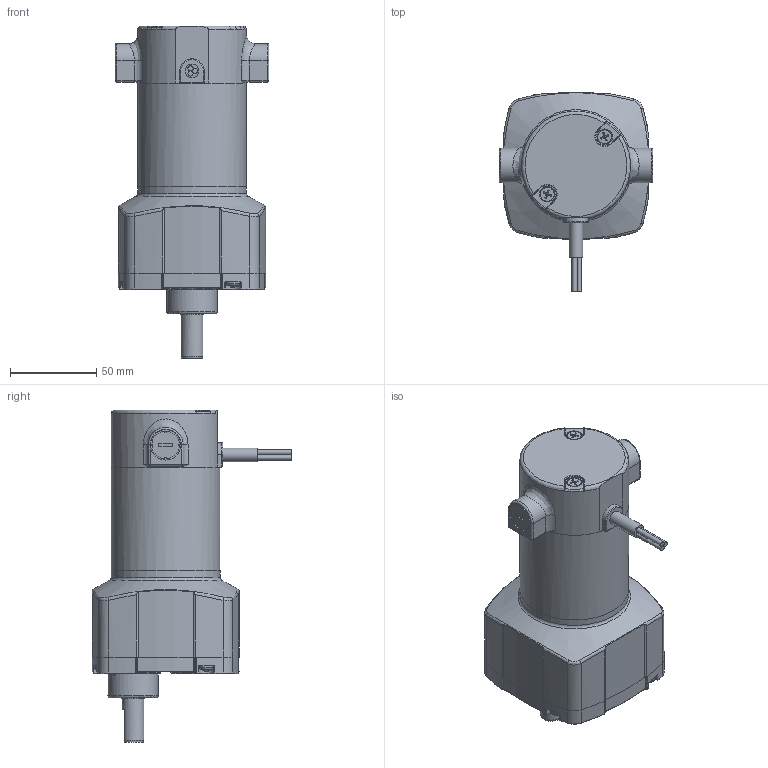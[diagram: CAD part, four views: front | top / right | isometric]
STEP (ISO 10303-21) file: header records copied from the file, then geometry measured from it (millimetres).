
FILE_DESCRIPTION((''),'2;1');
FILE_NAME('D:\yang\Yang cw\SPG 업무\2. DC MOTOR\7. DC MOTOR 브로슈어\BS2 SERIES DC GEARED MOTOR\3D\BS23DA.stp','2015-03-31T13:41:25',('ycw1227'),(''),'Autodesk Inventor 2013','Autodesk Inventor 2013','');
FILE_SCHEMA(('AUTOMOTIVE_DESIGN { 1 0 10303 214 1 1 1 1 }'));
Length unit declared in the file: millimetre
Products named in the file (1): 부품41
Bounding box: 89 x 115.54 x 192.13 mm (x, y, z)
Volume: 554215.9 mm3; surface area: 75658.9 mm2
Topology: 1 solids, 11 shells, 798 faces, 1947 edges, 1196 vertices
Faces by surface type: plane 266, cylinder 234, torus 129, bspline 78, cone 75, sphere 16
Full cylindrical faces by diameter (mm): 2 x1, 3 x3, 3.962 x4, 4 x6, 4.112 x1, 4.5 x2, 4.7 x4, 6 x4, 8 x7, 12.7 x1, 13 x2, 17.55 x2, 19 x1, 22 x2, 29 x1, 63 x2, 76.5 x1, 77 x1, 79 x2
Entity records: 26857 total; most frequent: CARTESIAN_POINT 8910, ORIENTED_EDGE 3676, DIRECTION 3666, EDGE_CURVE 1838, AXIS2_PLACEMENT_3D 1556, VERTEX_POINT 1167, EDGE_LOOP 915, CIRCLE 801
